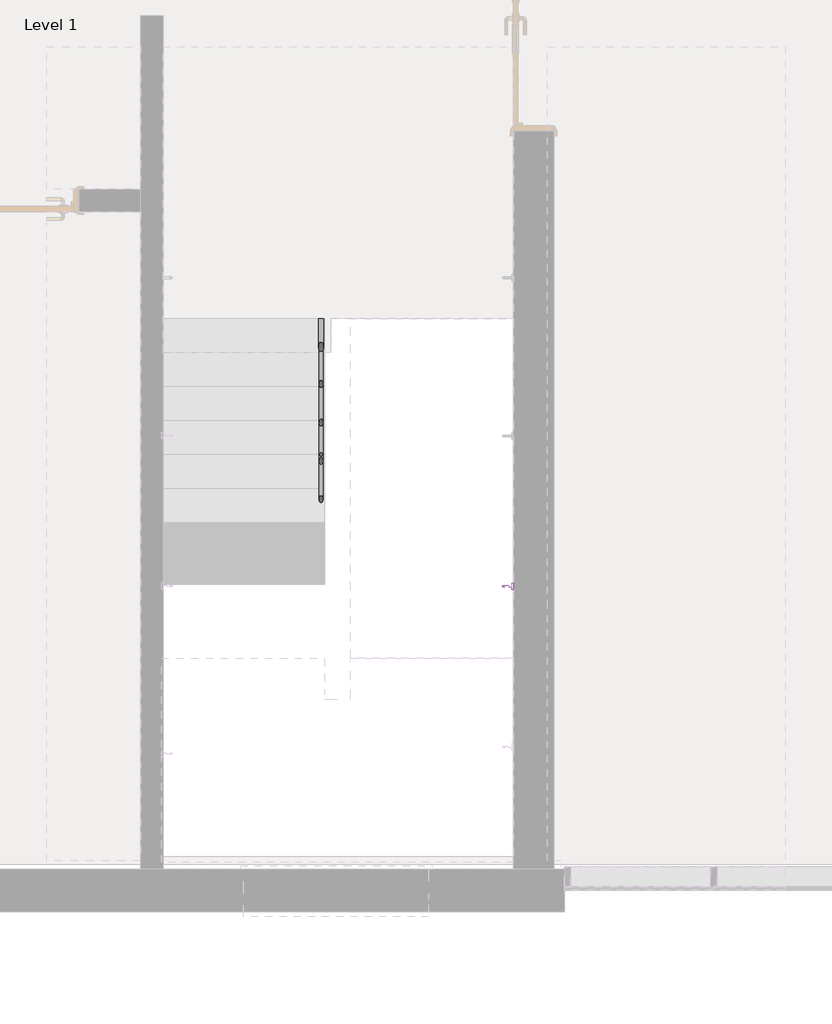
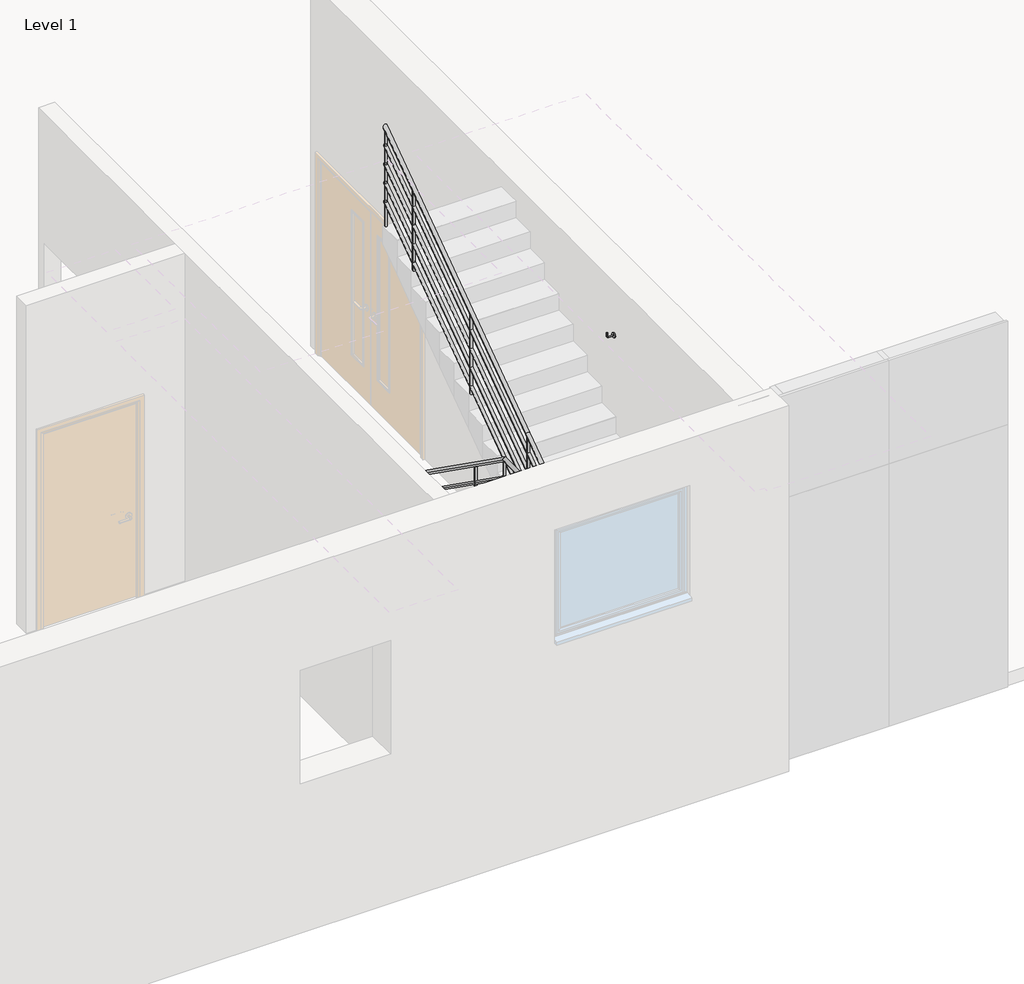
# One storey, part 9 of 12: 1 proxy, 1 railing.
"""IFC4 building model written with IfcOpenShell, lengths in millimetres."""

from ifc_helpers import new_model, si_unit, point, frame, frame_2d, origin, place, context, project, spatial, circle_curve, ellipse_curve, trimmed, segment, composite_curve, outline, extrude, transform, mapped, element, save
from ifc_brep_helpers import plane_surface, cylinder_surface, advanced_brep
from components import support_metal_circular_support_metal_circular_016e83f0

model = new_model("IFC4")

# Units and contexts
model_context = context("Model", 3, world=origin())
ifc_project = project(units=[si_unit("LENGTHUNIT", "METRE", prefix="MILLI")], contexts=[model_context])

# Site, building, storey
site = spatial("IfcSite", under=ifc_project)
building = spatial("IfcBuilding", under=site)
storey = spatial("IfcBuildingStorey", under=building, Name="Level 1", Elevation=3900.0)

# Proxy
placement = place(None, origin())
support_metal_circular_support_metal_circular_shape = support_metal_circular_support_metal_circular_016e83f0(model_context)
element("IfcBuildingElementProxy", 1, Name="Support - Metal - Circular : Support - Metal - Circular", ObjectType="Support - Metal - Circular : Support - Metal - Circular", at=placement, inside=storey, context=model_context, shape_type="MappedRepresentation", body=[
    mapped(support_metal_circular_support_metal_circular_shape, transform((7761.8000024, 2330.7111848, 7285.714432), x_axis=(0.0, -1.0, 0.0), y_axis=(1.0, 0.0, 0.0), z_axis=(0.0, 0.0, 1.0))),
])

# Railing
element("IfcRailing", 2, ObjectType="900mm_Pipe", at=placement, inside=storey, context=model_context, shape_type="SolidModel", body=[
    advanced_brep(
    [(6401.8000025, 4300.0, 4952.7548977), (6441.8000025, 4300.0, 4952.7548977), (6401.8000025, 1793.6287019, 6730.0), (6441.8000025, 1793.6287019, 6730.0), (6401.8000025, 1454.6, 6730.0), (6441.8000025, 1494.6, 6730.0), (6682.6000026, 1454.6, 6730.0), (6642.6000026, 1494.6, 6730.0), (6682.6000026, 1556.3712981, 6730.0), (6642.6000026, 1556.3712981, 6730.0), (6682.6000026, 1811.5685755, 6910.9580695), (6642.6000026, 1811.5685755, 6910.9580695), (6682.6000026, 4300.0, 8675.4821704), (6642.6000026, 4300.0, 8675.4821704)],
    [
        (0, 1, ellipse_curve(frame((6421.8000025, 4300.0, 4952.7548977), z_axis=(0.0, 1.0, 0.0), x_axis=(0.0, 0.0, -1.0)), 24.5178296, 20.0)),
        (1, 0, ellipse_curve(frame((6421.8000025, 4300.0, 4952.7548977), z_axis=(0.0, 1.0, 0.0), x_axis=(0.0, 0.0, -1.0)), 24.5178296, 20.0)),
        (0, 2),
        (2, 3, ellipse_curve(frame((6421.8000025, 1793.6287019, 6730.0), z_axis=(0.0, 0.9528202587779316, -0.30353509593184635), x_axis=(0.0, -0.30353509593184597, -0.9528202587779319)), 20.9903178, 20.0)),
        (3, 1),
        (3, 2, ellipse_curve(frame((6421.8000025, 1793.6287019, 6730.0), z_axis=(0.0, 0.9528202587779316, -0.30353509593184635), x_axis=(0.0, -0.30353509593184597, -0.9528202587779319)), 20.9903178, 20.0)),
        (2, 4),
        (4, 5, ellipse_curve(frame((6421.8000025, 1474.6, 6730.0), z_axis=(-0.7071067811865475, 0.7071067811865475, 0.0), x_axis=(0.7071067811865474, 0.7071067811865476, 0.0)), 28.2842712, 20.0)),
        (5, 3),
        (5, 4, ellipse_curve(frame((6421.8000025, 1474.6, 6730.0), z_axis=(-0.7071067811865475, 0.7071067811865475, 0.0), x_axis=(0.7071067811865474, 0.7071067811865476, 0.0)), 28.2842712, 20.0)),
        (4, 6),
        (6, 7, ellipse_curve(frame((6662.6000026, 1474.6, 6730.0), z_axis=(-0.7071067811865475, -0.7071067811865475, 0.0), x_axis=(-0.7071067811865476, 0.7071067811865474, 0.0)), 28.2842712, 20.0)),
        (7, 5),
        (7, 6, ellipse_curve(frame((6662.6000026, 1474.6, 6730.0), z_axis=(-0.7071067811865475, -0.7071067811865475, 0.0), x_axis=(-0.7071067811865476, 0.7071067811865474, 0.0)), 28.2842712, 20.0)),
        (6, 8),
        (8, 9, ellipse_curve(frame((6662.6000026, 1556.3712981, 6730.0), z_axis=(0.0, -0.9528202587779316, -0.3035350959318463), x_axis=(0.0, -0.3035350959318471, 0.9528202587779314)), 20.9903178, 20.0)),
        (9, 7),
        (9, 8, ellipse_curve(frame((6662.6000026, 1556.3712981, 6730.0), z_axis=(0.0, -0.9528202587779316, -0.3035350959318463), x_axis=(0.0, -0.3035350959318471, 0.9528202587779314)), 20.9903178, 20.0)),
        (8, 10),
        (10, 11, circle_curve(frame((6662.6000026, 1811.5685755, 6910.9580695), z_axis=(0.0, -0.8157328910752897, -0.5784287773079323), x_axis=(-1.0, 0.0, 0.0)), 20.0)),
        (11, 9),
        (11, 10, circle_curve(frame((6662.6000026, 1811.5685755, 6910.9580695), z_axis=(0.0, -0.8157328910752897, -0.5784287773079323), x_axis=(-1.0, 0.0, 0.0)), 20.0)),
        (12, 13, ellipse_curve(frame((6662.6000026, 4300.0, 8675.4821704), z_axis=(0.0, 1.0, 0.0), x_axis=(0.0, 0.0, -1.0)), 24.5178296, 20.0)),
        (13, 12, ellipse_curve(frame((6662.6000026, 4300.0, 8675.4821704), z_axis=(0.0, 1.0, 0.0), x_axis=(0.0, 0.0, -1.0)), 24.5178296, 20.0)),
        (10, 12),
        (13, 11),
    ],
    [
        plane_surface(frame((6421.8000025, 4300.0, 4977.2727273), z_axis=(0.0, 1.0, 0.0), x_axis=(0.0, 0.0, -1.0))),
        cylinder_surface(frame((6421.8000025, 4288.4314245, 4960.9580695), z_axis=(0.0, 0.8157328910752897, -0.5784287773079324), x_axis=(1.0, 0.0, 0.0)), 20.0),
        cylinder_surface(frame((6421.8000025, 1800.0, 6730.0), z_axis=(0.0, 1.0, 0.0), x_axis=(1.0, 0.0, 0.0)), 20.0),
        cylinder_surface(frame((6421.8000025, 1474.6, 6730.0), z_axis=(-1.0, 0.0, 0.0), x_axis=(0.0, 1.0, 0.0)), 20.0),
        cylinder_surface(frame((6662.6000026, 1474.6, 6730.0), z_axis=(0.0, -1.0, 0.0), x_axis=(-1.0, 0.0, 0.0)), 20.0),
        cylinder_surface(frame((6662.6000026, 1561.5685755, 6733.6853422), z_axis=(0.0, -0.8157328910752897, -0.5784287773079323), x_axis=(-1.0, 0.0, 0.0)), 20.0),
        plane_surface(frame((6662.6000026, 4300.0, 8700.0), z_axis=(0.0, 1.0, 0.0), x_axis=(0.0, 0.0, 1.0))),
        cylinder_surface(frame((6662.6000026, 1811.5685755, 6910.9580695), z_axis=(0.0, -0.8157328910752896, -0.5784287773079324), x_axis=(-1.0, 0.0, 0.0)), 20.0),
    ],
    [
        (0, [[1, 2]]),
        (1, [[-1, 3, 4, 5]]),
        (1, [[-2, -5, 6, -3]]),
        (2, [[-4, 7, 8, 9]]),
        (2, [[-6, -9, 10, -7]]),
        (3, [[-8, 11, 12, 13]]),
        (3, [[-10, -13, 14, -11]]),
        (4, [[-12, 15, 16, 17]]),
        (4, [[-14, -17, 18, -15]]),
        (5, [[-16, 19, 20, 21]]),
        (5, [[-18, -21, 22, -19]]),
        (6, [[23, 24]]),
        (7, [[-20, 25, -24, 26]]),
        (7, [[-22, -26, -23, -25]]),
    ],
),
    advanced_brep(
    [(6406.8000025, 4300.0, 4758.8843551), (6436.8000025, 4300.0, 4758.8843551), (6406.8000025, 1800.0, 6531.6116278), (6436.8000025, 1800.0, 6531.6116278)],
    [
        (0, 1, ellipse_curve(frame((6421.8000025, 4300.0, 4758.8843551), z_axis=(0.0, 1.0, 0.0), x_axis=(0.0, 0.0, -1.0)), 18.3883722, 15.0)),
        (1, 0, ellipse_curve(frame((6421.8000025, 4300.0, 4758.8843551), z_axis=(0.0, 1.0, 0.0), x_axis=(0.0, 0.0, -1.0)), 18.3883722, 15.0)),
        (2, 3, ellipse_curve(frame((6421.8000025, 1800.0, 6531.6116278), z_axis=(0.0, -1.0, 0.0), x_axis=(0.0, 0.0, -1.0)), 18.3883722, 15.0)),
        (3, 2, ellipse_curve(frame((6421.8000025, 1800.0, 6531.6116278), z_axis=(0.0, -1.0, 0.0), x_axis=(0.0, 0.0, -1.0)), 18.3883722, 15.0)),
        (0, 2),
        (3, 1),
    ],
    [
        plane_surface(frame((6421.8000025, 4300.0, 4777.2727273), z_axis=(0.0, 1.0, 0.0), x_axis=(0.0, 0.0, -1.0))),
        plane_surface(frame((6421.8000025, 1800.0, 6550.0), z_axis=(0.0, -1.0, 0.0), x_axis=(0.0, 0.0, -1.0))),
        cylinder_surface(frame((6421.8000025, 4291.3235683, 4765.0367339), z_axis=(0.0, 0.8157328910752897, -0.5784287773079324), x_axis=(1.0, 0.0, 0.0)), 15.0),
    ],
    [
        (0, [[1, 2]]),
        (1, [[3, 4]]),
        (2, [[-1, 5, -4, 6]]),
        (2, [[-2, -6, -3, -5]]),
    ],
),
    advanced_brep(
    [(6406.8000025, 1800.0, 6535.0), (6436.8000025, 1800.0, 6535.0), (6406.8000025, 1489.6, 6535.0), (6436.8000025, 1489.6, 6535.0)],
    [
        (0, 1, circle_curve(frame((6421.8000025, 1800.0, 6535.0), z_axis=(0.0, 1.0, 0.0), x_axis=(1.0, 0.0, 0.0)), 15.0)),
        (1, 0, circle_curve(frame((6421.8000025, 1800.0, 6535.0), z_axis=(0.0, 1.0, 0.0), x_axis=(1.0, 0.0, 0.0)), 15.0)),
        (2, 3, circle_curve(frame((6421.8000025, 1489.6, 6535.0), z_axis=(0.0, -1.0, 0.0), x_axis=(1.0, 0.0, 0.0)), 15.0)),
        (3, 2, circle_curve(frame((6421.8000025, 1489.6, 6535.0), z_axis=(0.0, -1.0, 0.0), x_axis=(1.0, 0.0, 0.0)), 15.0)),
        (0, 2),
        (3, 1),
    ],
    [
        plane_surface(frame((6421.8000025, 1800.0, 6550.0), z_axis=(0.0, 1.0, 0.0), x_axis=(0.0, 0.0, -1.0))),
        plane_surface(frame((6421.8000025, 1489.6, 6550.0), z_axis=(0.0, -1.0, 0.0), x_axis=(0.0, 0.0, -1.0))),
        cylinder_surface(frame((6421.8000025, 1800.0, 6535.0), z_axis=(0.0, 1.0, 0.0), x_axis=(1.0, 0.0, 0.0)), 15.0),
    ],
    [
        (0, [[1, 2]]),
        (1, [[3, 4]]),
        (2, [[-1, 5, -4, 6]]),
        (2, [[-2, -6, -3, -5]]),
    ],
),
    advanced_brep(
    [(6406.8000025, 1459.6, 6535.0), (6406.8000025, 1489.6, 6535.0), (6647.6000026, 1459.6, 6535.0), (6647.6000026, 1489.6, 6535.0)],
    [
        (0, 1, circle_curve(frame((6406.8000025, 1474.6, 6535.0), z_axis=(-1.0, 0.0, 0.0), x_axis=(0.0, 1.0, 0.0)), 15.0)),
        (1, 0, circle_curve(frame((6406.8000025, 1474.6, 6535.0), z_axis=(-1.0, 0.0, 0.0), x_axis=(0.0, 1.0, 0.0)), 15.0)),
        (2, 3, circle_curve(frame((6647.6000026, 1474.6, 6535.0), z_axis=(1.0, 0.0, 0.0), x_axis=(0.0, 1.0, 0.0)), 15.0)),
        (3, 2, circle_curve(frame((6647.6000026, 1474.6, 6535.0), z_axis=(1.0, 0.0, 0.0), x_axis=(0.0, 1.0, 0.0)), 15.0)),
        (0, 2),
        (3, 1),
    ],
    [
        plane_surface(frame((6406.8000025, 1474.6, 6550.0), z_axis=(-1.0, 0.0, 0.0), x_axis=(0.0, 1.0, 0.0))),
        plane_surface(frame((6647.6000026, 1474.6, 6550.0), z_axis=(1.0, 0.0, 0.0), x_axis=(0.0, 1.0, 0.0))),
        cylinder_surface(frame((6406.8000025, 1474.6, 6535.0), z_axis=(-1.0, 0.0, 0.0), x_axis=(0.0, 1.0, 0.0)), 15.0),
    ],
    [
        (0, [[1, 2]]),
        (1, [[3, 4]]),
        (2, [[-1, 5, -4, 6]]),
        (2, [[-2, -6, -3, -5]]),
    ],
),
    advanced_brep(
    [(6677.6000026, 1459.6, 6535.0), (6647.6000026, 1459.6, 6535.0), (6677.6000026, 1554.7784736, 6535.0), (6647.6000026, 1554.7784736, 6535.0), (6677.6000026, 1800.0, 6708.8843551), (6647.6000026, 1800.0, 6708.8843551)],
    [
        (0, 1, circle_curve(frame((6662.6000026, 1459.6, 6535.0), z_axis=(0.0, -1.0, 0.0), x_axis=(-1.0, 0.0, 0.0)), 15.0)),
        (1, 0, circle_curve(frame((6662.6000026, 1459.6, 6535.0), z_axis=(0.0, -1.0, 0.0), x_axis=(-1.0, 0.0, 0.0)), 15.0)),
        (0, 2),
        (2, 3, ellipse_curve(frame((6662.6000026, 1554.7784736, 6535.0), z_axis=(0.0, -0.9528202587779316, -0.3035350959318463), x_axis=(0.0, -0.3035350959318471, 0.9528202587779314)), 15.7427383, 15.0)),
        (3, 1),
        (3, 2, ellipse_curve(frame((6662.6000026, 1554.7784736, 6535.0), z_axis=(0.0, -0.9528202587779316, -0.3035350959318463), x_axis=(0.0, -0.3035350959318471, 0.9528202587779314)), 15.7427383, 15.0)),
        (4, 5, ellipse_curve(frame((6662.6000026, 1800.0, 6708.8843551), z_axis=(0.0, 1.0, 0.0), x_axis=(0.0, 0.0, -1.0)), 18.3883722, 15.0)),
        (5, 4, ellipse_curve(frame((6662.6000026, 1800.0, 6708.8843551), z_axis=(0.0, 1.0, 0.0), x_axis=(0.0, 0.0, -1.0)), 18.3883722, 15.0)),
        (2, 4),
        (5, 3),
    ],
    [
        plane_surface(frame((6662.6000026, 1459.6, 6550.0), z_axis=(0.0, -1.0, 0.0), x_axis=(0.0, 0.0, 1.0))),
        cylinder_surface(frame((6662.6000026, 1459.6, 6535.0), z_axis=(0.0, -1.0, 0.0), x_axis=(-1.0, 0.0, 0.0)), 15.0),
        plane_surface(frame((6662.6000026, 1800.0, 6727.2727273), z_axis=(0.0, 1.0, 0.0), x_axis=(0.0, 0.0, 1.0))),
        cylinder_surface(frame((6662.6000026, 1558.6764317, 6537.7640066), z_axis=(0.0, -0.8157328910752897, -0.5784287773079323), x_axis=(-1.0, 0.0, 0.0)), 15.0),
    ],
    [
        (0, [[1, 2]]),
        (1, [[-1, 3, 4, 5]]),
        (1, [[-2, -5, 6, -3]]),
        (2, [[7, 8]]),
        (3, [[-4, 9, -8, 10]]),
        (3, [[-6, -10, -7, -9]]),
    ],
),
    advanced_brep(
    [(6677.6000026, 1800.0, 6708.8843551), (6647.6000026, 1800.0, 6708.8843551), (6677.6000026, 4300.0, 8481.6116278), (6647.6000026, 4300.0, 8481.6116278)],
    [
        (0, 1, ellipse_curve(frame((6662.6000026, 1800.0, 6708.8843551), z_axis=(0.0, -1.0, 0.0), x_axis=(0.0, 0.0, -1.0)), 18.3883722, 15.0)),
        (1, 0, ellipse_curve(frame((6662.6000026, 1800.0, 6708.8843551), z_axis=(0.0, -1.0, 0.0), x_axis=(0.0, 0.0, -1.0)), 18.3883722, 15.0)),
        (2, 3, ellipse_curve(frame((6662.6000026, 4300.0, 8481.6116278), z_axis=(0.0, 1.0, 0.0), x_axis=(0.0, 0.0, -1.0)), 18.3883722, 15.0)),
        (3, 2, ellipse_curve(frame((6662.6000026, 4300.0, 8481.6116278), z_axis=(0.0, 1.0, 0.0), x_axis=(0.0, 0.0, -1.0)), 18.3883722, 15.0)),
        (0, 2),
        (3, 1),
    ],
    [
        plane_surface(frame((6662.6000026, 1800.0, 6727.2727273), z_axis=(0.0, -1.0, 0.0), x_axis=(0.0, 0.0, 1.0))),
        plane_surface(frame((6662.6000026, 4300.0, 8500.0), z_axis=(0.0, 1.0, 0.0), x_axis=(0.0, 0.0, 1.0))),
        cylinder_surface(frame((6662.6000026, 1808.6764317, 6715.0367339), z_axis=(0.0, -0.8157328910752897, -0.5784287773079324), x_axis=(-1.0, 0.0, 0.0)), 15.0),
    ],
    [
        (0, [[1, 2]]),
        (1, [[3, 4]]),
        (2, [[-1, 5, -4, 6]]),
        (2, [[-2, -6, -3, -5]]),
    ],
),
    advanced_brep(
    [(6406.8000025, 4300.0, 4558.8843551), (6436.8000025, 4300.0, 4558.8843551), (6406.8000025, 1800.0, 6331.6116278), (6436.8000025, 1800.0, 6331.6116278)],
    [
        (0, 1, ellipse_curve(frame((6421.8000025, 4300.0, 4558.8843551), z_axis=(0.0, 1.0, 0.0), x_axis=(0.0, 0.0, -1.0)), 18.3883722, 15.0)),
        (1, 0, ellipse_curve(frame((6421.8000025, 4300.0, 4558.8843551), z_axis=(0.0, 1.0, 0.0), x_axis=(0.0, 0.0, -1.0)), 18.3883722, 15.0)),
        (2, 3, ellipse_curve(frame((6421.8000025, 1800.0, 6331.6116278), z_axis=(0.0, -1.0, 0.0), x_axis=(0.0, 0.0, -1.0)), 18.3883722, 15.0)),
        (3, 2, ellipse_curve(frame((6421.8000025, 1800.0, 6331.6116278), z_axis=(0.0, -1.0, 0.0), x_axis=(0.0, 0.0, -1.0)), 18.3883722, 15.0)),
        (0, 2),
        (3, 1),
    ],
    [
        plane_surface(frame((6421.8000025, 4300.0, 4577.2727273), z_axis=(0.0, 1.0, 0.0), x_axis=(0.0, 0.0, -1.0))),
        plane_surface(frame((6421.8000025, 1800.0, 6350.0), z_axis=(0.0, -1.0, 0.0), x_axis=(0.0, 0.0, -1.0))),
        cylinder_surface(frame((6421.8000025, 4291.3235683, 4565.0367339), z_axis=(0.0, 0.8157328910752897, -0.5784287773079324), x_axis=(1.0, 0.0, 0.0)), 15.0),
    ],
    [
        (0, [[1, 2]]),
        (1, [[3, 4]]),
        (2, [[-1, 5, -4, 6]]),
        (2, [[-2, -6, -3, -5]]),
    ],
),
    advanced_brep(
    [(6406.8000025, 1800.0, 6335.0), (6436.8000025, 1800.0, 6335.0), (6406.8000025, 1489.6, 6335.0), (6436.8000025, 1489.6, 6335.0)],
    [
        (0, 1, circle_curve(frame((6421.8000025, 1800.0, 6335.0), z_axis=(0.0, 1.0, 0.0), x_axis=(1.0, 0.0, 0.0)), 15.0)),
        (1, 0, circle_curve(frame((6421.8000025, 1800.0, 6335.0), z_axis=(0.0, 1.0, 0.0), x_axis=(1.0, 0.0, 0.0)), 15.0)),
        (2, 3, circle_curve(frame((6421.8000025, 1489.6, 6335.0), z_axis=(0.0, -1.0, 0.0), x_axis=(1.0, 0.0, 0.0)), 15.0)),
        (3, 2, circle_curve(frame((6421.8000025, 1489.6, 6335.0), z_axis=(0.0, -1.0, 0.0), x_axis=(1.0, 0.0, 0.0)), 15.0)),
        (0, 2),
        (3, 1),
    ],
    [
        plane_surface(frame((6421.8000025, 1800.0, 6350.0), z_axis=(0.0, 1.0, 0.0), x_axis=(0.0, 0.0, -1.0))),
        plane_surface(frame((6421.8000025, 1489.6, 6350.0), z_axis=(0.0, -1.0, 0.0), x_axis=(0.0, 0.0, -1.0))),
        cylinder_surface(frame((6421.8000025, 1800.0, 6335.0), z_axis=(0.0, 1.0, 0.0), x_axis=(1.0, 0.0, 0.0)), 15.0),
    ],
    [
        (0, [[1, 2]]),
        (1, [[3, 4]]),
        (2, [[-1, 5, -4, 6]]),
        (2, [[-2, -6, -3, -5]]),
    ],
),
    advanced_brep(
    [(6406.8000025, 1459.6, 6335.0), (6406.8000025, 1489.6, 6335.0), (6647.6000026, 1459.6, 6335.0), (6647.6000026, 1489.6, 6335.0)],
    [
        (0, 1, circle_curve(frame((6406.8000025, 1474.6, 6335.0), z_axis=(-1.0, 0.0, 0.0), x_axis=(0.0, 1.0, 0.0)), 15.0)),
        (1, 0, circle_curve(frame((6406.8000025, 1474.6, 6335.0), z_axis=(-1.0, 0.0, 0.0), x_axis=(0.0, 1.0, 0.0)), 15.0)),
        (2, 3, circle_curve(frame((6647.6000026, 1474.6, 6335.0), z_axis=(1.0, 0.0, 0.0), x_axis=(0.0, 1.0, 0.0)), 15.0)),
        (3, 2, circle_curve(frame((6647.6000026, 1474.6, 6335.0), z_axis=(1.0, 0.0, 0.0), x_axis=(0.0, 1.0, 0.0)), 15.0)),
        (0, 2),
        (3, 1),
    ],
    [
        plane_surface(frame((6406.8000025, 1474.6, 6350.0), z_axis=(-1.0, 0.0, 0.0), x_axis=(0.0, 1.0, 0.0))),
        plane_surface(frame((6647.6000026, 1474.6, 6350.0), z_axis=(1.0, 0.0, 0.0), x_axis=(0.0, 1.0, 0.0))),
        cylinder_surface(frame((6406.8000025, 1474.6, 6335.0), z_axis=(-1.0, 0.0, 0.0), x_axis=(0.0, 1.0, 0.0)), 15.0),
    ],
    [
        (0, [[1, 2]]),
        (1, [[3, 4]]),
        (2, [[-1, 5, -4, 6]]),
        (2, [[-2, -6, -3, -5]]),
    ],
),
    advanced_brep(
    [(6677.6000026, 1459.6, 6335.0), (6647.6000026, 1459.6, 6335.0), (6677.6000026, 1554.7784736, 6335.0), (6647.6000026, 1554.7784736, 6335.0), (6677.6000026, 1800.0, 6508.8843551), (6647.6000026, 1800.0, 6508.8843551)],
    [
        (0, 1, circle_curve(frame((6662.6000026, 1459.6, 6335.0), z_axis=(0.0, -1.0, 0.0), x_axis=(-1.0, 0.0, 0.0)), 15.0)),
        (1, 0, circle_curve(frame((6662.6000026, 1459.6, 6335.0), z_axis=(0.0, -1.0, 0.0), x_axis=(-1.0, 0.0, 0.0)), 15.0)),
        (0, 2),
        (2, 3, ellipse_curve(frame((6662.6000026, 1554.7784736, 6335.0), z_axis=(0.0, -0.9528202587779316, -0.3035350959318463), x_axis=(0.0, -0.3035350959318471, 0.9528202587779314)), 15.7427383, 15.0)),
        (3, 1),
        (3, 2, ellipse_curve(frame((6662.6000026, 1554.7784736, 6335.0), z_axis=(0.0, -0.9528202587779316, -0.3035350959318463), x_axis=(0.0, -0.3035350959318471, 0.9528202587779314)), 15.7427383, 15.0)),
        (4, 5, ellipse_curve(frame((6662.6000026, 1800.0, 6508.8843551), z_axis=(0.0, 1.0, 0.0), x_axis=(0.0, 0.0, -1.0)), 18.3883722, 15.0)),
        (5, 4, ellipse_curve(frame((6662.6000026, 1800.0, 6508.8843551), z_axis=(0.0, 1.0, 0.0), x_axis=(0.0, 0.0, -1.0)), 18.3883722, 15.0)),
        (2, 4),
        (5, 3),
    ],
    [
        plane_surface(frame((6662.6000026, 1459.6, 6350.0), z_axis=(0.0, -1.0, 0.0), x_axis=(0.0, 0.0, 1.0))),
        cylinder_surface(frame((6662.6000026, 1459.6, 6335.0), z_axis=(0.0, -1.0, 0.0), x_axis=(-1.0, 0.0, 0.0)), 15.0),
        plane_surface(frame((6662.6000026, 1800.0, 6527.2727273), z_axis=(0.0, 1.0, 0.0), x_axis=(0.0, 0.0, 1.0))),
        cylinder_surface(frame((6662.6000026, 1558.6764317, 6337.7640066), z_axis=(0.0, -0.8157328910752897, -0.5784287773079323), x_axis=(-1.0, 0.0, 0.0)), 15.0),
    ],
    [
        (0, [[1, 2]]),
        (1, [[-1, 3, 4, 5]]),
        (1, [[-2, -5, 6, -3]]),
        (2, [[7, 8]]),
        (3, [[-4, 9, -8, 10]]),
        (3, [[-6, -10, -7, -9]]),
    ],
),
    advanced_brep(
    [(6677.6000026, 1800.0, 6508.8843551), (6647.6000026, 1800.0, 6508.8843551), (6677.6000026, 4300.0, 8281.6116278), (6647.6000026, 4300.0, 8281.6116278)],
    [
        (0, 1, ellipse_curve(frame((6662.6000026, 1800.0, 6508.8843551), z_axis=(0.0, -1.0, 0.0), x_axis=(0.0, 0.0, -1.0)), 18.3883722, 15.0)),
        (1, 0, ellipse_curve(frame((6662.6000026, 1800.0, 6508.8843551), z_axis=(0.0, -1.0, 0.0), x_axis=(0.0, 0.0, -1.0)), 18.3883722, 15.0)),
        (2, 3, ellipse_curve(frame((6662.6000026, 4300.0, 8281.6116278), z_axis=(0.0, 1.0, 0.0), x_axis=(0.0, 0.0, -1.0)), 18.3883722, 15.0)),
        (3, 2, ellipse_curve(frame((6662.6000026, 4300.0, 8281.6116278), z_axis=(0.0, 1.0, 0.0), x_axis=(0.0, 0.0, -1.0)), 18.3883722, 15.0)),
        (0, 2),
        (3, 1),
    ],
    [
        plane_surface(frame((6662.6000026, 1800.0, 6527.2727273), z_axis=(0.0, -1.0, 0.0), x_axis=(0.0, 0.0, 1.0))),
        plane_surface(frame((6662.6000026, 4300.0, 8300.0), z_axis=(0.0, 1.0, 0.0), x_axis=(0.0, 0.0, 1.0))),
        cylinder_surface(frame((6662.6000026, 1808.6764317, 6515.0367339), z_axis=(0.0, -0.8157328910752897, -0.5784287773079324), x_axis=(-1.0, 0.0, 0.0)), 15.0),
    ],
    [
        (0, [[1, 2]]),
        (1, [[3, 4]]),
        (2, [[-1, 5, -4, 6]]),
        (2, [[-2, -6, -3, -5]]),
    ],
),
    advanced_brep(
    [(6406.8000025, 4300.0, 4358.8843551), (6436.8000025, 4300.0, 4358.8843551), (6406.8000025, 1800.0, 6131.6116278), (6436.8000025, 1800.0, 6131.6116278)],
    [
        (0, 1, ellipse_curve(frame((6421.8000025, 4300.0, 4358.8843551), z_axis=(0.0, 1.0, 0.0), x_axis=(0.0, 0.0, -1.0)), 18.3883722, 15.0)),
        (1, 0, ellipse_curve(frame((6421.8000025, 4300.0, 4358.8843551), z_axis=(0.0, 1.0, 0.0), x_axis=(0.0, 0.0, -1.0)), 18.3883722, 15.0)),
        (2, 3, ellipse_curve(frame((6421.8000025, 1800.0, 6131.6116278), z_axis=(0.0, -1.0, 0.0), x_axis=(0.0, 0.0, -1.0)), 18.3883722, 15.0)),
        (3, 2, ellipse_curve(frame((6421.8000025, 1800.0, 6131.6116278), z_axis=(0.0, -1.0, 0.0), x_axis=(0.0, 0.0, -1.0)), 18.3883722, 15.0)),
        (0, 2),
        (3, 1),
    ],
    [
        plane_surface(frame((6421.8000025, 4300.0, 4377.2727273), z_axis=(0.0, 1.0, 0.0), x_axis=(0.0, 0.0, -1.0))),
        plane_surface(frame((6421.8000025, 1800.0, 6150.0), z_axis=(0.0, -1.0, 0.0), x_axis=(0.0, 0.0, -1.0))),
        cylinder_surface(frame((6421.8000025, 4291.3235683, 4365.0367339), z_axis=(0.0, 0.8157328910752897, -0.5784287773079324), x_axis=(1.0, 0.0, 0.0)), 15.0),
    ],
    [
        (0, [[1, 2]]),
        (1, [[3, 4]]),
        (2, [[-1, 5, -4, 6]]),
        (2, [[-2, -6, -3, -5]]),
    ],
),
    advanced_brep(
    [(6406.8000025, 1800.0, 6135.0), (6436.8000025, 1800.0, 6135.0), (6406.8000025, 1489.6, 6135.0), (6436.8000025, 1489.6, 6135.0)],
    [
        (0, 1, circle_curve(frame((6421.8000025, 1800.0, 6135.0), z_axis=(0.0, 1.0, 0.0), x_axis=(1.0, 0.0, 0.0)), 15.0)),
        (1, 0, circle_curve(frame((6421.8000025, 1800.0, 6135.0), z_axis=(0.0, 1.0, 0.0), x_axis=(1.0, 0.0, 0.0)), 15.0)),
        (2, 3, circle_curve(frame((6421.8000025, 1489.6, 6135.0), z_axis=(0.0, -1.0, 0.0), x_axis=(1.0, 0.0, 0.0)), 15.0)),
        (3, 2, circle_curve(frame((6421.8000025, 1489.6, 6135.0), z_axis=(0.0, -1.0, 0.0), x_axis=(1.0, 0.0, 0.0)), 15.0)),
        (0, 2),
        (3, 1),
    ],
    [
        plane_surface(frame((6421.8000025, 1800.0, 6150.0), z_axis=(0.0, 1.0, 0.0), x_axis=(0.0, 0.0, -1.0))),
        plane_surface(frame((6421.8000025, 1489.6, 6150.0), z_axis=(0.0, -1.0, 0.0), x_axis=(0.0, 0.0, -1.0))),
        cylinder_surface(frame((6421.8000025, 1800.0, 6135.0), z_axis=(0.0, 1.0, 0.0), x_axis=(1.0, 0.0, 0.0)), 15.0),
    ],
    [
        (0, [[1, 2]]),
        (1, [[3, 4]]),
        (2, [[-1, 5, -4, 6]]),
        (2, [[-2, -6, -3, -5]]),
    ],
),
    advanced_brep(
    [(6406.8000025, 1459.6, 6135.0), (6406.8000025, 1489.6, 6135.0), (6647.6000026, 1459.6, 6135.0), (6647.6000026, 1489.6, 6135.0)],
    [
        (0, 1, circle_curve(frame((6406.8000025, 1474.6, 6135.0), z_axis=(-1.0, 0.0, 0.0), x_axis=(0.0, 1.0, 0.0)), 15.0)),
        (1, 0, circle_curve(frame((6406.8000025, 1474.6, 6135.0), z_axis=(-1.0, 0.0, 0.0), x_axis=(0.0, 1.0, 0.0)), 15.0)),
        (2, 3, circle_curve(frame((6647.6000026, 1474.6, 6135.0), z_axis=(1.0, 0.0, 0.0), x_axis=(0.0, 1.0, 0.0)), 15.0)),
        (3, 2, circle_curve(frame((6647.6000026, 1474.6, 6135.0), z_axis=(1.0, 0.0, 0.0), x_axis=(0.0, 1.0, 0.0)), 15.0)),
        (0, 2),
        (3, 1),
    ],
    [
        plane_surface(frame((6406.8000025, 1474.6, 6150.0), z_axis=(-1.0, 0.0, 0.0), x_axis=(0.0, 1.0, 0.0))),
        plane_surface(frame((6647.6000026, 1474.6, 6150.0), z_axis=(1.0, 0.0, 0.0), x_axis=(0.0, 1.0, 0.0))),
        cylinder_surface(frame((6406.8000025, 1474.6, 6135.0), z_axis=(-1.0, 0.0, 0.0), x_axis=(0.0, 1.0, 0.0)), 15.0),
    ],
    [
        (0, [[1, 2]]),
        (1, [[3, 4]]),
        (2, [[-1, 5, -4, 6]]),
        (2, [[-2, -6, -3, -5]]),
    ],
),
    advanced_brep(
    [(6677.6000026, 1459.6, 6135.0), (6647.6000026, 1459.6, 6135.0), (6677.6000026, 1554.7784736, 6135.0), (6647.6000026, 1554.7784736, 6135.0), (6677.6000026, 1800.0, 6308.8843551), (6647.6000026, 1800.0, 6308.8843551)],
    [
        (0, 1, circle_curve(frame((6662.6000026, 1459.6, 6135.0), z_axis=(0.0, -1.0, 0.0), x_axis=(-1.0, 0.0, 0.0)), 15.0)),
        (1, 0, circle_curve(frame((6662.6000026, 1459.6, 6135.0), z_axis=(0.0, -1.0, 0.0), x_axis=(-1.0, 0.0, 0.0)), 15.0)),
        (0, 2),
        (2, 3, ellipse_curve(frame((6662.6000026, 1554.7784736, 6135.0), z_axis=(0.0, -0.9528202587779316, -0.3035350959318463), x_axis=(0.0, -0.3035350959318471, 0.9528202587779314)), 15.7427383, 15.0)),
        (3, 1),
        (3, 2, ellipse_curve(frame((6662.6000026, 1554.7784736, 6135.0), z_axis=(0.0, -0.9528202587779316, -0.3035350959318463), x_axis=(0.0, -0.3035350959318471, 0.9528202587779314)), 15.7427383, 15.0)),
        (4, 5, ellipse_curve(frame((6662.6000026, 1800.0, 6308.8843551), z_axis=(0.0, 1.0, 0.0), x_axis=(0.0, 0.0, -1.0)), 18.3883722, 15.0)),
        (5, 4, ellipse_curve(frame((6662.6000026, 1800.0, 6308.8843551), z_axis=(0.0, 1.0, 0.0), x_axis=(0.0, 0.0, -1.0)), 18.3883722, 15.0)),
        (2, 4),
        (5, 3),
    ],
    [
        plane_surface(frame((6662.6000026, 1459.6, 6150.0), z_axis=(0.0, -1.0, 0.0), x_axis=(0.0, 0.0, 1.0))),
        cylinder_surface(frame((6662.6000026, 1459.6, 6135.0), z_axis=(0.0, -1.0, 0.0), x_axis=(-1.0, 0.0, 0.0)), 15.0),
        plane_surface(frame((6662.6000026, 1800.0, 6327.2727273), z_axis=(0.0, 1.0, 0.0), x_axis=(0.0, 0.0, 1.0))),
        cylinder_surface(frame((6662.6000026, 1558.6764317, 6137.7640066), z_axis=(0.0, -0.8157328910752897, -0.5784287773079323), x_axis=(-1.0, 0.0, 0.0)), 15.0),
    ],
    [
        (0, [[1, 2]]),
        (1, [[-1, 3, 4, 5]]),
        (1, [[-2, -5, 6, -3]]),
        (2, [[7, 8]]),
        (3, [[-4, 9, -8, 10]]),
        (3, [[-6, -10, -7, -9]]),
    ],
),
    advanced_brep(
    [(6677.6000026, 1800.0, 6308.8843551), (6647.6000026, 1800.0, 6308.8843551), (6677.6000026, 4300.0, 8081.6116278), (6647.6000026, 4300.0, 8081.6116278)],
    [
        (0, 1, ellipse_curve(frame((6662.6000026, 1800.0, 6308.8843551), z_axis=(0.0, -1.0, 0.0), x_axis=(0.0, 0.0, -1.0)), 18.3883722, 15.0)),
        (1, 0, ellipse_curve(frame((6662.6000026, 1800.0, 6308.8843551), z_axis=(0.0, -1.0, 0.0), x_axis=(0.0, 0.0, -1.0)), 18.3883722, 15.0)),
        (2, 3, ellipse_curve(frame((6662.6000026, 4300.0, 8081.6116278), z_axis=(0.0, 1.0, 0.0), x_axis=(0.0, 0.0, -1.0)), 18.3883722, 15.0)),
        (3, 2, ellipse_curve(frame((6662.6000026, 4300.0, 8081.6116278), z_axis=(0.0, 1.0, 0.0), x_axis=(0.0, 0.0, -1.0)), 18.3883722, 15.0)),
        (0, 2),
        (3, 1),
    ],
    [
        plane_surface(frame((6662.6000026, 1800.0, 6327.2727273), z_axis=(0.0, -1.0, 0.0), x_axis=(0.0, 0.0, 1.0))),
        plane_surface(frame((6662.6000026, 4300.0, 8100.0), z_axis=(0.0, 1.0, 0.0), x_axis=(0.0, 0.0, 1.0))),
        cylinder_surface(frame((6662.6000026, 1808.6764317, 6315.0367339), z_axis=(0.0, -0.8157328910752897, -0.5784287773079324), x_axis=(-1.0, 0.0, 0.0)), 15.0),
    ],
    [
        (0, [[1, 2]]),
        (1, [[3, 4]]),
        (2, [[-1, 5, -4, 6]]),
        (2, [[-2, -6, -3, -5]]),
    ],
),
    advanced_brep(
    [(6406.8000025, 4300.0, 4158.8843551), (6436.8000025, 4300.0, 4158.8843551), (6406.8000025, 1800.0, 5931.6116278), (6436.8000025, 1800.0, 5931.6116278)],
    [
        (0, 1, ellipse_curve(frame((6421.8000025, 4300.0, 4158.8843551), z_axis=(0.0, 1.0, 0.0), x_axis=(0.0, 0.0, -1.0)), 18.3883722, 15.0)),
        (1, 0, ellipse_curve(frame((6421.8000025, 4300.0, 4158.8843551), z_axis=(0.0, 1.0, 0.0), x_axis=(0.0, 0.0, -1.0)), 18.3883722, 15.0)),
        (2, 3, ellipse_curve(frame((6421.8000025, 1800.0, 5931.6116278), z_axis=(0.0, -1.0, 0.0), x_axis=(0.0, 0.0, -1.0)), 18.3883722, 15.0)),
        (3, 2, ellipse_curve(frame((6421.8000025, 1800.0, 5931.6116278), z_axis=(0.0, -1.0, 0.0), x_axis=(0.0, 0.0, -1.0)), 18.3883722, 15.0)),
        (0, 2),
        (3, 1),
    ],
    [
        plane_surface(frame((6421.8000025, 4300.0, 4177.2727273), z_axis=(0.0, 1.0, 0.0), x_axis=(0.0, 0.0, -1.0))),
        plane_surface(frame((6421.8000025, 1800.0, 5950.0), z_axis=(0.0, -1.0, 0.0), x_axis=(0.0, 0.0, -1.0))),
        cylinder_surface(frame((6421.8000025, 4291.3235683, 4165.0367339), z_axis=(0.0, 0.8157328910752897, -0.5784287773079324), x_axis=(1.0, 0.0, 0.0)), 15.0),
    ],
    [
        (0, [[1, 2]]),
        (1, [[3, 4]]),
        (2, [[-1, 5, -4, 6]]),
        (2, [[-2, -6, -3, -5]]),
    ],
),
    advanced_brep(
    [(6406.8000025, 1800.0, 5935.0), (6436.8000025, 1800.0, 5935.0), (6406.8000025, 1489.6, 5935.0), (6436.8000025, 1489.6, 5935.0)],
    [
        (0, 1, circle_curve(frame((6421.8000025, 1800.0, 5935.0), z_axis=(0.0, 1.0, 0.0), x_axis=(1.0, 0.0, 0.0)), 15.0)),
        (1, 0, circle_curve(frame((6421.8000025, 1800.0, 5935.0), z_axis=(0.0, 1.0, 0.0), x_axis=(1.0, 0.0, 0.0)), 15.0)),
        (2, 3, circle_curve(frame((6421.8000025, 1489.6, 5935.0), z_axis=(0.0, -1.0, 0.0), x_axis=(1.0, 0.0, 0.0)), 15.0)),
        (3, 2, circle_curve(frame((6421.8000025, 1489.6, 5935.0), z_axis=(0.0, -1.0, 0.0), x_axis=(1.0, 0.0, 0.0)), 15.0)),
        (0, 2),
        (3, 1),
    ],
    [
        plane_surface(frame((6421.8000025, 1800.0, 5950.0), z_axis=(0.0, 1.0, 0.0), x_axis=(0.0, 0.0, -1.0))),
        plane_surface(frame((6421.8000025, 1489.6, 5950.0), z_axis=(0.0, -1.0, 0.0), x_axis=(0.0, 0.0, -1.0))),
        cylinder_surface(frame((6421.8000025, 1800.0, 5935.0), z_axis=(0.0, 1.0, 0.0), x_axis=(1.0, 0.0, 0.0)), 15.0),
    ],
    [
        (0, [[1, 2]]),
        (1, [[3, 4]]),
        (2, [[-1, 5, -4, 6]]),
        (2, [[-2, -6, -3, -5]]),
    ],
),
    advanced_brep(
    [(6406.8000025, 1459.6, 5935.0), (6406.8000025, 1489.6, 5935.0), (6647.6000026, 1459.6, 5935.0), (6647.6000026, 1489.6, 5935.0)],
    [
        (0, 1, circle_curve(frame((6406.8000025, 1474.6, 5935.0), z_axis=(-1.0, 0.0, 0.0), x_axis=(0.0, 1.0, 0.0)), 15.0)),
        (1, 0, circle_curve(frame((6406.8000025, 1474.6, 5935.0), z_axis=(-1.0, 0.0, 0.0), x_axis=(0.0, 1.0, 0.0)), 15.0)),
        (2, 3, circle_curve(frame((6647.6000026, 1474.6, 5935.0), z_axis=(1.0, 0.0, 0.0), x_axis=(0.0, 1.0, 0.0)), 15.0)),
        (3, 2, circle_curve(frame((6647.6000026, 1474.6, 5935.0), z_axis=(1.0, 0.0, 0.0), x_axis=(0.0, 1.0, 0.0)), 15.0)),
        (0, 2),
        (3, 1),
    ],
    [
        plane_surface(frame((6406.8000025, 1474.6, 5950.0), z_axis=(-1.0, 0.0, 0.0), x_axis=(0.0, 1.0, 0.0))),
        plane_surface(frame((6647.6000026, 1474.6, 5950.0), z_axis=(1.0, 0.0, 0.0), x_axis=(0.0, 1.0, 0.0))),
        cylinder_surface(frame((6406.8000025, 1474.6, 5935.0), z_axis=(-1.0, 0.0, 0.0), x_axis=(0.0, 1.0, 0.0)), 15.0),
    ],
    [
        (0, [[1, 2]]),
        (1, [[3, 4]]),
        (2, [[-1, 5, -4, 6]]),
        (2, [[-2, -6, -3, -5]]),
    ],
),
    advanced_brep(
    [(6677.6000026, 1459.6, 5935.0), (6647.6000026, 1459.6, 5935.0), (6677.6000026, 1554.7784736, 5935.0), (6647.6000026, 1554.7784736, 5935.0), (6677.6000026, 1800.0, 6108.8843551), (6647.6000026, 1800.0, 6108.8843551)],
    [
        (0, 1, circle_curve(frame((6662.6000026, 1459.6, 5935.0), z_axis=(0.0, -1.0, 0.0), x_axis=(-1.0, 0.0, 0.0)), 15.0)),
        (1, 0, circle_curve(frame((6662.6000026, 1459.6, 5935.0), z_axis=(0.0, -1.0, 0.0), x_axis=(-1.0, 0.0, 0.0)), 15.0)),
        (0, 2),
        (2, 3, ellipse_curve(frame((6662.6000026, 1554.7784736, 5935.0), z_axis=(0.0, -0.9528202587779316, -0.3035350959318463), x_axis=(0.0, -0.3035350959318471, 0.9528202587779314)), 15.7427383, 15.0)),
        (3, 1),
        (3, 2, ellipse_curve(frame((6662.6000026, 1554.7784736, 5935.0), z_axis=(0.0, -0.9528202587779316, -0.3035350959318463), x_axis=(0.0, -0.3035350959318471, 0.9528202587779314)), 15.7427383, 15.0)),
        (4, 5, ellipse_curve(frame((6662.6000026, 1800.0, 6108.8843551), z_axis=(0.0, 1.0, 0.0), x_axis=(0.0, 0.0, -1.0)), 18.3883722, 15.0)),
        (5, 4, ellipse_curve(frame((6662.6000026, 1800.0, 6108.8843551), z_axis=(0.0, 1.0, 0.0), x_axis=(0.0, 0.0, -1.0)), 18.3883722, 15.0)),
        (2, 4),
        (5, 3),
    ],
    [
        plane_surface(frame((6662.6000026, 1459.6, 5950.0), z_axis=(0.0, -1.0, 0.0), x_axis=(0.0, 0.0, 1.0))),
        cylinder_surface(frame((6662.6000026, 1459.6, 5935.0), z_axis=(0.0, -1.0, 0.0), x_axis=(-1.0, 0.0, 0.0)), 15.0),
        plane_surface(frame((6662.6000026, 1800.0, 6127.2727273), z_axis=(0.0, 1.0, 0.0), x_axis=(0.0, 0.0, 1.0))),
        cylinder_surface(frame((6662.6000026, 1558.6764317, 5937.7640066), z_axis=(0.0, -0.8157328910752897, -0.5784287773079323), x_axis=(-1.0, 0.0, 0.0)), 15.0),
    ],
    [
        (0, [[1, 2]]),
        (1, [[-1, 3, 4, 5]]),
        (1, [[-2, -5, 6, -3]]),
        (2, [[7, 8]]),
        (3, [[-4, 9, -8, 10]]),
        (3, [[-6, -10, -7, -9]]),
    ],
),
    advanced_brep(
    [(6677.6000026, 1800.0, 6108.8843551), (6647.6000026, 1800.0, 6108.8843551), (6677.6000026, 4300.0, 7881.6116278), (6647.6000026, 4300.0, 7881.6116278)],
    [
        (0, 1, ellipse_curve(frame((6662.6000026, 1800.0, 6108.8843551), z_axis=(0.0, -1.0, 0.0), x_axis=(0.0, 0.0, -1.0)), 18.3883722, 15.0)),
        (1, 0, ellipse_curve(frame((6662.6000026, 1800.0, 6108.8843551), z_axis=(0.0, -1.0, 0.0), x_axis=(0.0, 0.0, -1.0)), 18.3883722, 15.0)),
        (2, 3, ellipse_curve(frame((6662.6000026, 4300.0, 7881.6116278), z_axis=(0.0, 1.0, 0.0), x_axis=(0.0, 0.0, -1.0)), 18.3883722, 15.0)),
        (3, 2, ellipse_curve(frame((6662.6000026, 4300.0, 7881.6116278), z_axis=(0.0, 1.0, 0.0), x_axis=(0.0, 0.0, -1.0)), 18.3883722, 15.0)),
        (0, 2),
        (3, 1),
    ],
    [
        plane_surface(frame((6662.6000026, 1800.0, 6127.2727273), z_axis=(0.0, -1.0, 0.0), x_axis=(0.0, 0.0, 1.0))),
        plane_surface(frame((6662.6000026, 4300.0, 7900.0), z_axis=(0.0, 1.0, 0.0), x_axis=(0.0, 0.0, 1.0))),
        cylinder_surface(frame((6662.6000026, 1808.6764317, 6115.0367339), z_axis=(0.0, -0.8157328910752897, -0.5784287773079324), x_axis=(-1.0, 0.0, 0.0)), 15.0),
    ],
    [
        (0, [[1, 2]]),
        (1, [[3, 4]]),
        (2, [[-1, 5, -4, 6]]),
        (2, [[-2, -6, -3, -5]]),
    ],
),
    advanced_brep(
    [(6650.1000026, 3800.0, 8296.4188863), (6675.1000026, 3800.0, 8296.4188863), (6675.1000026, 3800.0, 7445.4545455), (6650.1000026, 3800.0, 7445.4545455)],
    [
        (0, 1, ellipse_curve(frame((6662.6000026, 3800.0, 8296.4188863), z_axis=(0.0, 0.5784287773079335, -0.8157328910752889), x_axis=(0.0, 0.8157328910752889, 0.5784287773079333)), 15.3236435, 12.5)),
        (1, 2),
        (2, 3, circle_curve(frame((6662.6000026, 3800.0, 7445.4545455), z_axis=(0.0, 0.0, 1.0), x_axis=(1.0, 0.0, 0.0)), 12.5)),
        (3, 0),
        (3, 2, circle_curve(frame((6662.6000026, 3800.0, 7445.4545455), z_axis=(0.0, 0.0, 1.0), x_axis=(1.0, 0.0, 0.0)), 12.5)),
        (1, 0, ellipse_curve(frame((6662.6000026, 3800.0, 8296.4188863), z_axis=(0.0, 0.5784287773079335, -0.8157328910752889), x_axis=(0.0, 0.8157328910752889, 0.5784287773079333)), 15.3236435, 12.5)),
    ],
    [
        cylinder_surface(frame((6662.6000026, 3800.0, 7345.4545455), z_axis=(0.0, 0.0, 1.0), x_axis=(1.0, 0.0, 0.0)), 12.5),
        plane_surface(frame((6687.6000026, 3825.0, 8314.146159), z_axis=(0.0, -0.5784287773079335, 0.8157328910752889), x_axis=(-1.0, 0.0, 0.0))),
        plane_surface(frame((6687.6000026, 3775.0, 7445.4545455), z_axis=(0.0, 0.0, -1.0), x_axis=(-1.0, 0.0, 0.0))),
    ],
    [
        (0, [[1, 2, 3, 4]]),
        (0, [[5, -2, 6, -4]]),
        (1, [[-6, -1]]),
        (2, [[-5, -3]]),
    ],
),
    advanced_brep(
    [(6650.1000026, 2800.0, 7587.3279772), (6675.1000026, 2800.0, 7587.3279772), (6675.1000026, 2800.0, 6736.3636364), (6650.1000026, 2800.0, 6736.3636364)],
    [
        (0, 1, ellipse_curve(frame((6662.6000026, 2800.0, 7587.3279772), z_axis=(0.0, 0.5784287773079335, -0.8157328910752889), x_axis=(0.0, 0.8157328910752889, 0.5784287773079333)), 15.3236435, 12.5)),
        (1, 2),
        (2, 3, circle_curve(frame((6662.6000026, 2800.0, 6736.3636364), z_axis=(0.0, 0.0, 1.0), x_axis=(1.0, 0.0, 0.0)), 12.5)),
        (3, 0),
        (3, 2, circle_curve(frame((6662.6000026, 2800.0, 6736.3636364), z_axis=(0.0, 0.0, 1.0), x_axis=(1.0, 0.0, 0.0)), 12.5)),
        (1, 0, ellipse_curve(frame((6662.6000026, 2800.0, 7587.3279772), z_axis=(0.0, 0.5784287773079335, -0.8157328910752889), x_axis=(0.0, 0.8157328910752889, 0.5784287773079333)), 15.3236435, 12.5)),
    ],
    [
        cylinder_surface(frame((6662.6000026, 2800.0, 6636.3636364), z_axis=(0.0, 0.0, 1.0), x_axis=(1.0, 0.0, 0.0)), 12.5),
        plane_surface(frame((6687.6000026, 2825.0, 7605.0552499), z_axis=(0.0, -0.5784287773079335, 0.8157328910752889), x_axis=(-1.0, 0.0, 0.0))),
        plane_surface(frame((6687.6000026, 2775.0, 6736.3636364), z_axis=(0.0, 0.0, -1.0), x_axis=(-1.0, 0.0, 0.0))),
    ],
    [
        (0, [[1, 2, 3, 4]]),
        (0, [[5, -2, 6, -4]]),
        (1, [[-6, -1]]),
        (2, [[-5, -3]]),
    ],
),
    advanced_brep(
    [(6434.3000025, 2300.0, 6346.4188863), (6409.3000025, 2300.0, 6346.4188863), (6409.3000025, 2300.0, 5495.4545455), (6434.3000025, 2300.0, 5495.4545455)],
    [
        (0, 1, ellipse_curve(frame((6421.8000025, 2300.0, 6346.4188863), z_axis=(0.0, -0.5784287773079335, -0.8157328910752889), x_axis=(0.0, -0.8157328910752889, 0.5784287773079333)), 15.3236435, 12.5)),
        (1, 2),
        (2, 3, circle_curve(frame((6421.8000025, 2300.0, 5495.4545455), z_axis=(0.0, 0.0, 1.0), x_axis=(-1.0, 0.0, 0.0)), 12.5)),
        (3, 0),
        (3, 2, circle_curve(frame((6421.8000025, 2300.0, 5495.4545455), z_axis=(0.0, 0.0, 1.0), x_axis=(-1.0, 0.0, 0.0)), 12.5)),
        (1, 0, ellipse_curve(frame((6421.8000025, 2300.0, 6346.4188863), z_axis=(0.0, -0.5784287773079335, -0.8157328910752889), x_axis=(0.0, -0.8157328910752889, 0.5784287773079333)), 15.3236435, 12.5)),
    ],
    [
        cylinder_surface(frame((6421.8000025, 2300.0, 5395.4545455), z_axis=(0.0, 0.0, 1.0), x_axis=(-1.0, 0.0, 0.0)), 12.5),
        plane_surface(frame((6396.8000025, 2275.0, 6364.146159), z_axis=(0.0, 0.5784287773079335, 0.8157328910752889), x_axis=(1.0, 0.0, 0.0))),
        plane_surface(frame((6396.8000025, 2325.0, 5495.4545455), z_axis=(0.0, 0.0, -1.0), x_axis=(1.0, 0.0, 0.0))),
    ],
    [
        (0, [[1, 2, 3, 4]]),
        (0, [[5, -2, 6, -4]]),
        (1, [[-6, -1]]),
        (2, [[-5, -3]]),
    ],
),
    advanced_brep(
    [(6434.3000025, 3300.0, 5637.3279772), (6409.3000025, 3300.0, 5637.3279772), (6409.3000025, 3300.0, 4786.3636364), (6434.3000025, 3300.0, 4786.3636364)],
    [
        (0, 1, ellipse_curve(frame((6421.8000025, 3300.0, 5637.3279772), z_axis=(0.0, -0.5784287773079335, -0.8157328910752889), x_axis=(0.0, -0.8157328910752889, 0.5784287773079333)), 15.3236435, 12.5)),
        (1, 2),
        (2, 3, circle_curve(frame((6421.8000025, 3300.0, 4786.3636364), z_axis=(0.0, 0.0, 1.0), x_axis=(-1.0, 0.0, 0.0)), 12.5)),
        (3, 0),
        (3, 2, circle_curve(frame((6421.8000025, 3300.0, 4786.3636364), z_axis=(0.0, 0.0, 1.0), x_axis=(-1.0, 0.0, 0.0)), 12.5)),
        (1, 0, ellipse_curve(frame((6421.8000025, 3300.0, 5637.3279772), z_axis=(0.0, -0.5784287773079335, -0.8157328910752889), x_axis=(0.0, -0.8157328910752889, 0.5784287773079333)), 15.3236435, 12.5)),
    ],
    [
        cylinder_surface(frame((6421.8000025, 3300.0, 4686.3636364), z_axis=(0.0, 0.0, 1.0), x_axis=(-1.0, 0.0, 0.0)), 12.5),
        plane_surface(frame((6396.8000025, 3275.0, 5655.0552499), z_axis=(0.0, 0.5784287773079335, 0.8157328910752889), x_axis=(1.0, 0.0, 0.0))),
        plane_surface(frame((6396.8000025, 3325.0, 4786.3636364), z_axis=(0.0, 0.0, -1.0), x_axis=(1.0, 0.0, 0.0))),
    ],
    [
        (0, [[1, 2, 3, 4]]),
        (0, [[5, -2, 6, -4]]),
        (1, [[-6, -1]]),
        (2, [[-5, -3]]),
    ],
),
    advanced_brep(
    [(6650.1000026, 1800.0, 6878.2370681), (6675.1000026, 1800.0, 6878.2370681), (6675.1000026, 1800.0, 5850.0), (6650.1000026, 1800.0, 5850.0)],
    [
        (0, 1, ellipse_curve(frame((6662.6000026, 1800.0, 6878.2370681), z_axis=(0.0, 0.5784287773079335, -0.8157328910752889), x_axis=(0.0, 0.8157328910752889, 0.5784287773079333)), 15.3236435, 12.5)),
        (1, 2),
        (2, 3, circle_curve(frame((6662.6000026, 1800.0, 5850.0), z_axis=(0.0, 0.0, 1.0), x_axis=(1.0, 0.0, 0.0)), 12.5)),
        (3, 0),
        (3, 2, circle_curve(frame((6662.6000026, 1800.0, 5850.0), z_axis=(0.0, 0.0, 1.0), x_axis=(1.0, 0.0, 0.0)), 12.5)),
        (1, 0, ellipse_curve(frame((6662.6000026, 1800.0, 6878.2370681), z_axis=(0.0, 0.5784287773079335, -0.8157328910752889), x_axis=(0.0, 0.8157328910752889, 0.5784287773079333)), 15.3236435, 12.5)),
    ],
    [
        cylinder_surface(frame((6662.6000026, 1800.0, 5750.0), z_axis=(0.0, 0.0, 1.0), x_axis=(1.0, 0.0, 0.0)), 12.5),
        plane_surface(frame((6687.6000026, 1825.0, 6895.9643409), z_axis=(0.0, -0.5784287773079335, 0.8157328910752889), x_axis=(-1.0, 0.0, 0.0))),
        plane_surface(frame((6687.6000026, 1775.0, 5850.0), z_axis=(0.0, 0.0, -1.0), x_axis=(-1.0, 0.0, 0.0))),
    ],
    [
        (0, [[1, 2, 3, 4]]),
        (0, [[5, -2, 6, -4]]),
        (1, [[-6, -1]]),
        (2, [[-5, -3]]),
    ],
),
    extrude(outline(composite_curve([segment(trimmed(circle_curve(frame_2d((6662.6000026, 1474.6)), 12.5), [point((6662.6000026, 1462.1))], [point((6662.6000026, 1487.1))], False, "CARTESIAN"), True, "CONTINUOUS"), segment(trimmed(circle_curve(frame_2d((6662.6000026, 1474.6)), 12.5), [point((6662.6000026, 1487.1))], [point((6662.6000026, 1462.1))], False, "CARTESIAN"), True, "CONTINUOUS")], self_intersect=False)), frame((0.0, 0.0, 5850.0), z_axis=(0.0, 0.0, 1.0), x_axis=(1.0, 0.0, 0.0)), (0.0, 0.0, 1.0), 860.0),
    extrude(outline(composite_curve([segment(trimmed(circle_curve(frame_2d((6421.8000025, 1474.6)), 12.5), [point((6409.3000025, 1474.6))], [point((6434.3000025, 1474.6))], False, "CARTESIAN"), True, "CONTINUOUS"), segment(trimmed(circle_curve(frame_2d((6421.8000025, 1474.6)), 12.5), [point((6434.3000025, 1474.6))], [point((6409.3000025, 1474.6))], False, "CARTESIAN"), True, "CONTINUOUS")], self_intersect=False)), frame((0.0, 0.0, 5850.0), z_axis=(0.0, 0.0, 1.0), x_axis=(1.0, 0.0, 0.0)), (0.0, 0.0, 1.0), 860.0),
    advanced_brep(
    [(6434.3000025, 1800.0, 6700.9643409), (6409.3000025, 1800.0, 6700.9643409), (6409.3000025, 1800.0, 5850.0), (6434.3000025, 1800.0, 5850.0)],
    [
        (0, 1, ellipse_curve(frame((6421.8000025, 1800.0, 6700.9643409), z_axis=(0.0, -0.5784287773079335, -0.8157328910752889), x_axis=(0.0, -0.8157328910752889, 0.5784287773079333)), 15.3236435, 12.5)),
        (1, 2),
        (2, 3, circle_curve(frame((6421.8000025, 1800.0, 5850.0), z_axis=(0.0, 0.0, 1.0), x_axis=(-1.0, 0.0, 0.0)), 12.5)),
        (3, 0),
        (3, 2, circle_curve(frame((6421.8000025, 1800.0, 5850.0), z_axis=(0.0, 0.0, 1.0), x_axis=(-1.0, 0.0, 0.0)), 12.5)),
        (1, 0, ellipse_curve(frame((6421.8000025, 1800.0, 6700.9643409), z_axis=(0.0, -0.5784287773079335, -0.8157328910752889), x_axis=(0.0, -0.8157328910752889, 0.5784287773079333)), 15.3236435, 12.5)),
    ],
    [
        cylinder_surface(frame((6421.8000025, 1800.0, 5750.0), z_axis=(0.0, 0.0, 1.0), x_axis=(-1.0, 0.0, 0.0)), 12.5),
        plane_surface(frame((6396.8000025, 1775.0, 6718.6916136), z_axis=(0.0, 0.5784287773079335, 0.8157328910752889), x_axis=(1.0, 0.0, 0.0))),
        plane_surface(frame((6396.8000025, 1825.0, 5850.0), z_axis=(0.0, 0.0, -1.0), x_axis=(1.0, 0.0, 0.0))),
    ],
    [
        (0, [[1, 2, 3, 4]]),
        (0, [[5, -2, 6, -4]]),
        (1, [[-6, -1]]),
        (2, [[-5, -3]]),
    ],
),
    advanced_brep(
    [(6650.1000026, 4287.5, 8642.1007045), (6675.1000026, 4287.5, 8642.1007045), (6675.1000026, 4287.5, 7622.7272727), (6650.1000026, 4287.5, 7622.7272727)],
    [
        (0, 1, ellipse_curve(frame((6662.6000026, 4287.5, 8642.1007045), z_axis=(0.0, 0.5784287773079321, -0.81573289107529), x_axis=(0.0, 0.8157328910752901, 0.5784287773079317)), 15.3236435, 12.5)),
        (1, 2),
        (2, 3, circle_curve(frame((6662.6000026, 4287.5, 7622.7272727), z_axis=(0.0, 0.0, 1.0), x_axis=(1.0, 0.0, 0.0)), 12.5)),
        (3, 0),
        (3, 2, circle_curve(frame((6662.6000026, 4287.5, 7622.7272727), z_axis=(0.0, 0.0, 1.0), x_axis=(1.0, 0.0, 0.0)), 12.5)),
        (1, 0, ellipse_curve(frame((6662.6000026, 4287.5, 8642.1007045), z_axis=(0.0, 0.5784287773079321, -0.81573289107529), x_axis=(0.0, 0.8157328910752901, 0.5784287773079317)), 15.3236435, 12.5)),
    ],
    [
        cylinder_surface(frame((6662.6000026, 4287.5, 7522.7272727), z_axis=(0.0, 0.0, 1.0), x_axis=(1.0, 0.0, 0.0)), 12.5),
        plane_surface(frame((6687.6000026, 4312.5, 8659.8279772), z_axis=(0.0, -0.5784287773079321, 0.81573289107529), x_axis=(-1.0, 0.0, 0.0))),
        plane_surface(frame((6687.6000026, 4262.5, 7622.7272727), z_axis=(0.0, 0.0, -1.0), x_axis=(-1.0, 0.0, 0.0))),
    ],
    [
        (0, [[1, 2, 3, 4]]),
        (0, [[5, -2, 6, -4]]),
        (1, [[-6, -1]]),
        (2, [[-5, -3]]),
    ],
),
    advanced_brep(
    [(6434.3000025, 4287.5, 4937.1965048), (6409.3000025, 4287.5, 4937.1965048), (6409.3000025, 4287.5, 4077.2727273), (6434.3000025, 4287.5, 4077.2727273)],
    [
        (0, 1, ellipse_curve(frame((6421.8000025, 4287.5, 4937.1965048), z_axis=(0.0, -0.5734623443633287, -0.8192319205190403), x_axis=(0.0, -0.8192319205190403, 0.5734623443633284)), 15.2581945, 12.5)),
        (1, 2),
        (2, 3, circle_curve(frame((6421.8000025, 4287.5, 4077.2727273), z_axis=(0.0, 0.0, 1.0), x_axis=(-1.0, 0.0, 0.0)), 12.5)),
        (3, 0),
        (3, 2, circle_curve(frame((6421.8000025, 4287.5, 4077.2727273), z_axis=(0.0, 0.0, 1.0), x_axis=(-1.0, 0.0, 0.0)), 12.5)),
        (1, 0, ellipse_curve(frame((6421.8000025, 4287.5, 4937.1965048), z_axis=(0.0, -0.5734623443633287, -0.8192319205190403), x_axis=(0.0, -0.8192319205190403, 0.5734623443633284)), 15.2581945, 12.5)),
    ],
    [
        cylinder_surface(frame((6421.8000025, 4287.5, 3977.2727273), z_axis=(0.0, 0.0, 1.0), x_axis=(-1.0, 0.0, 0.0)), 12.5),
        plane_surface(frame((6396.8000025, 4262.5, 4954.6965048), z_axis=(0.0, 0.5734623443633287, 0.8192319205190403), x_axis=(1.0, 0.0, 0.0))),
        plane_surface(frame((6396.8000025, 4312.5, 4077.2727273), z_axis=(0.0, 0.0, -1.0), x_axis=(1.0, 0.0, 0.0))),
    ],
    [
        (0, [[1, 2, 3, 4]]),
        (0, [[5, -2, 6, -4]]),
        (1, [[-6, -1]]),
        (2, [[-5, -3]]),
    ],
),
])

save(model, "model.ifc")
